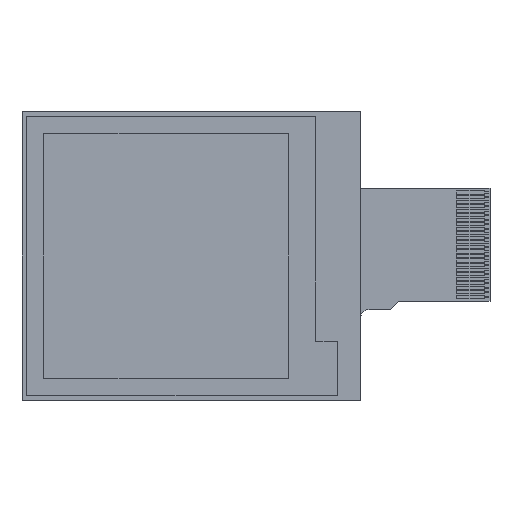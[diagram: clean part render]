
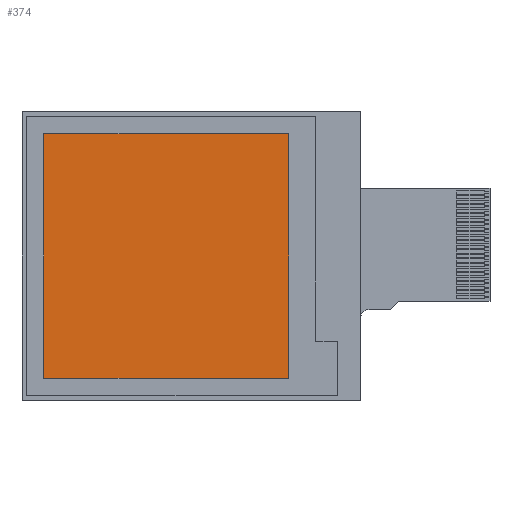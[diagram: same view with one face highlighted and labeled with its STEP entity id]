
A CAD part, left-side view. The second image highlights one B-rep face of the part: STEP entity #374.
In plain terms, the highlighted planar face has unit normal (-1, 0, 0).
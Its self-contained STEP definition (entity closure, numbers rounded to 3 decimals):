
#4 = CARTESIAN_POINT ( 'NONE',  ( 0., -10.74, -13.5 ) ) ;
#374 = ADVANCED_FACE ( 'NONE', ( #6761 ), #5996, .F. ) ;
#457 = DIRECTION ( 'NONE',  ( 0., 0., -1. ) ) ;
#1334 = DIRECTION ( 'NONE',  ( 0., 0., -1. ) ) ;
#1407 = LINE ( 'NONE', #4907, #5358 ) ;
#1451 = VECTOR ( 'NONE', #4051, 1000. ) ;
#2699 = ORIENTED_EDGE ( 'NONE', *, *, #11418, .T. ) ;
#2790 = LINE ( 'NONE', #10102, #5756 ) ;
#3280 = DIRECTION ( 'NONE',  ( 1., 0., 0. ) ) ;
#4051 = DIRECTION ( 'NONE',  ( 0., -1., 0. ) ) ;
#4438 = AXIS2_PLACEMENT_3D ( 'NONE', #6054, #3280, #1334 ) ;
#4510 = ORIENTED_EDGE ( 'NONE', *, *, #11140, .T. ) ;
#4907 = CARTESIAN_POINT ( 'NONE',  ( 0., 16.26, 0. ) ) ;
#5074 = LINE ( 'NONE', #7560, #1451 ) ;
#5358 = VECTOR ( 'NONE', #457, 1000. ) ;
#5756 = VECTOR ( 'NONE', #10853, 1000. ) ;
#5892 = CARTESIAN_POINT ( 'NONE',  ( 0., 0., 13.5 ) ) ;
#5996 = PLANE ( 'NONE',  #4438 ) ;
#6054 = CARTESIAN_POINT ( 'NONE',  ( 0., 0., 0. ) ) ;
#6761 = FACE_OUTER_BOUND ( 'NONE', #8773, .T. ) ;
#7416 = VECTOR ( 'NONE', #11267, 1000. ) ;
#7476 = ORIENTED_EDGE ( 'NONE', *, *, #10106, .F. ) ;
#7560 = CARTESIAN_POINT ( 'NONE',  ( 0., 0., -13.5 ) ) ;
#7861 = LINE ( 'NONE', #5892, #7416 ) ;
#7895 = ORIENTED_EDGE ( 'NONE', *, *, #8040, .F. ) ;
#8040 = EDGE_CURVE ( 'NONE', #8071, #9463, #7861, .T. ) ;
#8071 = VERTEX_POINT ( 'NONE', #10395 ) ;
#8293 = CARTESIAN_POINT ( 'NONE',  ( 0., -10.74, 13.5 ) ) ;
#8773 = EDGE_LOOP ( 'NONE', ( #2699, #7476, #7895, #4510 ) ) ;
#9042 = CARTESIAN_POINT ( 'NONE',  ( 0., 16.26, -13.5 ) ) ;
#9380 = VERTEX_POINT ( 'NONE', #4 ) ;
#9463 = VERTEX_POINT ( 'NONE', #8293 ) ;
#10102 = CARTESIAN_POINT ( 'NONE',  ( 0., -10.74, 0. ) ) ;
#10106 = EDGE_CURVE ( 'NONE', #9463, #9380, #2790, .T. ) ;
#10395 = CARTESIAN_POINT ( 'NONE',  ( 0., 16.26, 13.5 ) ) ;
#10853 = DIRECTION ( 'NONE',  ( 0., 0., -1. ) ) ;
#11140 = EDGE_CURVE ( 'NONE', #8071, #11268, #1407, .T. ) ;
#11267 = DIRECTION ( 'NONE',  ( 0., -1., 0. ) ) ;
#11268 = VERTEX_POINT ( 'NONE', #9042 ) ;
#11418 = EDGE_CURVE ( 'NONE', #11268, #9380, #5074, .T. ) ;
